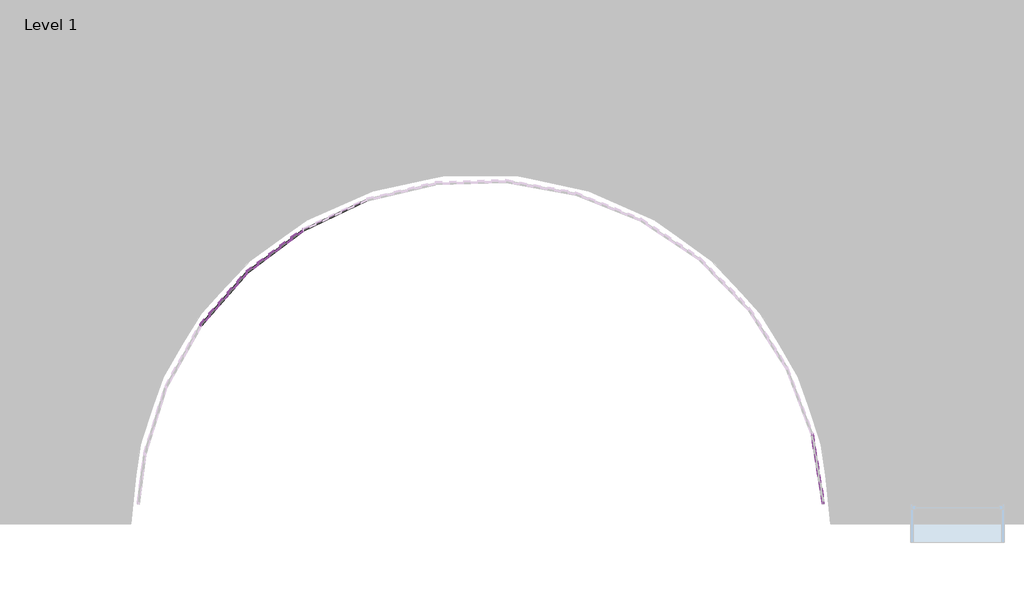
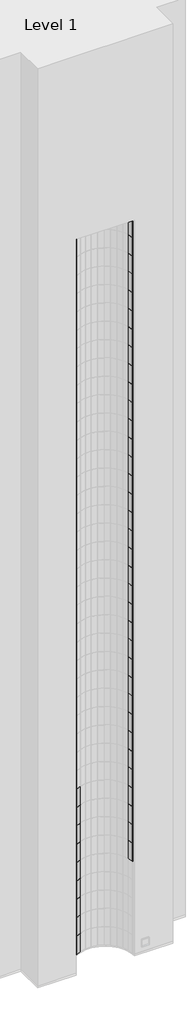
# One storey, part 7 of 20: 124 plates.
"""IFC4 building model written with IfcOpenShell, lengths in millimetres."""

from ifc_helpers import new_model, si_unit, origin, place, context, project, spatial, transform, mapped, element, save
from components import system_panel_glazed_d77d1ebf

model = new_model("IFC4")

# Units and contexts
model_context = context("Model", 3, world=origin())
ifc_project = project(units=[si_unit("LENGTHUNIT", "METRE", prefix="MILLI")], contexts=[model_context])

# Site, building, storey
site = spatial("IfcSite", under=ifc_project)
building = spatial("IfcBuilding", under=site)
storey = spatial("IfcBuildingStorey", under=building, Name="Level 1", Elevation=0.0)

# Plates
placement = place(None, origin())
system_panel_glazed_shape = system_panel_glazed_d77d1ebf(model_context)
element("IfcPlate", 1, ObjectType="System Panel : Glazed", at=placement, inside=storey, context=model_context, shape_type="MappedRepresentation", body=[
    mapped(system_panel_glazed_shape, transform((1625.145029, -17428.8737158, 0.0), x_axis=(-0.9039117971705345, -0.4277189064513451, 0.0), y_axis=(0.4277189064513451, -0.9039117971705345, 0.0), z_axis=(0.0, 0.0, 1.0))),
])
element("IfcPlate", 2, ObjectType="System Panel : Glazed", at=placement, inside=storey, context=model_context, shape_type="MappedRepresentation", body=[
    mapped(system_panel_glazed_shape, transform((847.326469, -17900.3526496, 0.0), x_axis=(-0.7973536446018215, -0.6035123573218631, 0.0), y_axis=(0.6035123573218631, -0.7973536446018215, 0.0), z_axis=(0.0, 0.0, 1.0))),
])
element("IfcPlate", 3, ObjectType="System Panel : Glazed", at=placement, inside=storey, context=model_context, shape_type="MappedRepresentation", body=[
    mapped(system_panel_glazed_shape, transform((182.349833, -18520.9170466, 0.0), x_axis=(-0.65710093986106, -0.7538025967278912, 0.0), y_axis=(0.7538025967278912, -0.65710093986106, 0.0), z_axis=(0.0, 0.0, 1.0))),
])
element("IfcPlate", 4, ObjectType="System Panel : Glazed", at=placement, inside=storey, context=model_context, shape_type="MappedRepresentation", body=[
    mapped(system_panel_glazed_shape, transform((1625.145029, -17428.8737158, 3048.0), x_axis=(-0.9039117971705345, -0.4277189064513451, 0.0), y_axis=(0.4277189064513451, -0.9039117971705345, 0.0), z_axis=(0.0, 0.0, 1.0))),
])
element("IfcPlate", 5, ObjectType="System Panel : Glazed", at=placement, inside=storey, context=model_context, shape_type="MappedRepresentation", body=[
    mapped(system_panel_glazed_shape, transform((847.326469, -17900.3526496, 3048.0), x_axis=(-0.7973536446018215, -0.6035123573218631, 0.0), y_axis=(0.6035123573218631, -0.7973536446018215, 0.0), z_axis=(0.0, 0.0, 1.0))),
])
element("IfcPlate", 6, ObjectType="System Panel : Glazed", at=placement, inside=storey, context=model_context, shape_type="MappedRepresentation", body=[
    mapped(system_panel_glazed_shape, transform((182.349833, -18520.9170466, 3048.0), x_axis=(-0.65710093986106, -0.7538025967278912, 0.0), y_axis=(0.7538025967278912, -0.65710093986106, 0.0), z_axis=(0.0, 0.0, 1.0))),
])
element("IfcPlate", 7, ObjectType="System Panel : Glazed", at=placement, inside=storey, context=model_context, shape_type="MappedRepresentation", body=[
    mapped(system_panel_glazed_shape, transform((1625.145029, -17428.8737158, 6096.0), x_axis=(-0.9039117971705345, -0.4277189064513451, 0.0), y_axis=(0.4277189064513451, -0.9039117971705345, 0.0), z_axis=(0.0, 0.0, 1.0))),
])
element("IfcPlate", 8, ObjectType="System Panel : Glazed", at=placement, inside=storey, context=model_context, shape_type="MappedRepresentation", body=[
    mapped(system_panel_glazed_shape, transform((847.326469, -17900.3526496, 6096.0), x_axis=(-0.7973536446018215, -0.6035123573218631, 0.0), y_axis=(0.6035123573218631, -0.7973536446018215, 0.0), z_axis=(0.0, 0.0, 1.0))),
])
element("IfcPlate", 9, ObjectType="System Panel : Glazed", at=placement, inside=storey, context=model_context, shape_type="MappedRepresentation", body=[
    mapped(system_panel_glazed_shape, transform((182.349833, -18520.9170466, 6096.0), x_axis=(-0.65710093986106, -0.7538025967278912, 0.0), y_axis=(0.7538025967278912, -0.65710093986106, 0.0), z_axis=(0.0, 0.0, 1.0))),
])
element("IfcPlate", 10, ObjectType="System Panel : Glazed", at=placement, inside=storey, context=model_context, shape_type="MappedRepresentation", body=[
    mapped(system_panel_glazed_shape, transform((1625.145029, -17428.8737158, 9144.0), x_axis=(-0.9039117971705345, -0.4277189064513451, 0.0), y_axis=(0.4277189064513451, -0.9039117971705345, 0.0), z_axis=(0.0, 0.0, 1.0))),
])
element("IfcPlate", 11, ObjectType="System Panel : Glazed", at=placement, inside=storey, context=model_context, shape_type="MappedRepresentation", body=[
    mapped(system_panel_glazed_shape, transform((847.326469, -17900.3526496, 9144.0), x_axis=(-0.7973536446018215, -0.6035123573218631, 0.0), y_axis=(0.6035123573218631, -0.7973536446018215, 0.0), z_axis=(0.0, 0.0, 1.0))),
])
element("IfcPlate", 12, ObjectType="System Panel : Glazed", at=placement, inside=storey, context=model_context, shape_type="MappedRepresentation", body=[
    mapped(system_panel_glazed_shape, transform((182.349833, -18520.9170466, 9144.0), x_axis=(-0.65710093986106, -0.7538025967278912, 0.0), y_axis=(0.7538025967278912, -0.65710093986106, 0.0), z_axis=(0.0, 0.0, 1.0))),
])
element("IfcPlate", 13, ObjectType="System Panel : Glazed", at=placement, inside=storey, context=model_context, shape_type="MappedRepresentation", body=[
    mapped(system_panel_glazed_shape, transform((1625.145029, -17428.8737158, 12192.0), x_axis=(-0.9039117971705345, -0.4277189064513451, 0.0), y_axis=(0.4277189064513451, -0.9039117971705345, 0.0), z_axis=(0.0, 0.0, 1.0))),
])
element("IfcPlate", 14, ObjectType="System Panel : Glazed", at=placement, inside=storey, context=model_context, shape_type="MappedRepresentation", body=[
    mapped(system_panel_glazed_shape, transform((847.326469, -17900.3526496, 12192.0), x_axis=(-0.7973536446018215, -0.6035123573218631, 0.0), y_axis=(0.6035123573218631, -0.7973536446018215, 0.0), z_axis=(0.0, 0.0, 1.0))),
])
element("IfcPlate", 15, ObjectType="System Panel : Glazed", at=placement, inside=storey, context=model_context, shape_type="MappedRepresentation", body=[
    mapped(system_panel_glazed_shape, transform((182.349833, -18520.9170466, 12192.0), x_axis=(-0.65710093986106, -0.7538025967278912, 0.0), y_axis=(0.7538025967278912, -0.65710093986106, 0.0), z_axis=(0.0, 0.0, 1.0))),
])
element("IfcPlate", 16, ObjectType="System Panel : Glazed", at=placement, inside=storey, context=model_context, shape_type="MappedRepresentation", body=[
    mapped(system_panel_glazed_shape, transform((7886.1724907, -20726.1064319, 15240.0), x_axis=(-0.1587098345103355, 0.9873252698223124, 0.0), y_axis=(-0.9873252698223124, -0.1587098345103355, 0.0), z_axis=(0.0, 0.0, 1.0))),
])
element("IfcPlate", 17, ObjectType="System Panel : Glazed", at=placement, inside=storey, context=model_context, shape_type="MappedRepresentation", body=[
    mapped(system_panel_glazed_shape, transform((1625.145029, -17428.8737158, 15240.0), x_axis=(-0.9039117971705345, -0.4277189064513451, 0.0), y_axis=(0.4277189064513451, -0.9039117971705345, 0.0), z_axis=(0.0, 0.0, 1.0))),
])
element("IfcPlate", 18, ObjectType="System Panel : Glazed", at=placement, inside=storey, context=model_context, shape_type="MappedRepresentation", body=[
    mapped(system_panel_glazed_shape, transform((847.326469, -17900.3526496, 15240.0), x_axis=(-0.7973536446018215, -0.6035123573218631, 0.0), y_axis=(0.6035123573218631, -0.7973536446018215, 0.0), z_axis=(0.0, 0.0, 1.0))),
])
element("IfcPlate", 19, ObjectType="System Panel : Glazed", at=placement, inside=storey, context=model_context, shape_type="MappedRepresentation", body=[
    mapped(system_panel_glazed_shape, transform((182.349833, -18520.9170466, 15240.0), x_axis=(-0.65710093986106, -0.7538025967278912, 0.0), y_axis=(0.7538025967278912, -0.65710093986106, 0.0), z_axis=(0.0, 0.0, 1.0))),
])
element("IfcPlate", 20, ObjectType="System Panel : Glazed", at=placement, inside=storey, context=model_context, shape_type="MappedRepresentation", body=[
    mapped(system_panel_glazed_shape, transform((7886.1724907, -20726.1064319, 18288.0), x_axis=(-0.1587098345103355, 0.9873252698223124, 0.0), y_axis=(-0.9873252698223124, -0.1587098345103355, 0.0), z_axis=(0.0, 0.0, 1.0))),
])
element("IfcPlate", 21, ObjectType="System Panel : Glazed", at=placement, inside=storey, context=model_context, shape_type="MappedRepresentation", body=[
    mapped(system_panel_glazed_shape, transform((1625.145029, -17428.8737158, 18288.0), x_axis=(-0.9039117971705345, -0.4277189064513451, 0.0), y_axis=(0.4277189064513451, -0.9039117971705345, 0.0), z_axis=(0.0, 0.0, 1.0))),
])
element("IfcPlate", 22, ObjectType="System Panel : Glazed", at=placement, inside=storey, context=model_context, shape_type="MappedRepresentation", body=[
    mapped(system_panel_glazed_shape, transform((847.326469, -17900.3526496, 18288.0), x_axis=(-0.7973536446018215, -0.6035123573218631, 0.0), y_axis=(0.6035123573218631, -0.7973536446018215, 0.0), z_axis=(0.0, 0.0, 1.0))),
])
element("IfcPlate", 23, ObjectType="System Panel : Glazed", at=placement, inside=storey, context=model_context, shape_type="MappedRepresentation", body=[
    mapped(system_panel_glazed_shape, transform((182.349833, -18520.9170466, 18288.0), x_axis=(-0.65710093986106, -0.7538025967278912, 0.0), y_axis=(0.7538025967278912, -0.65710093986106, 0.0), z_axis=(0.0, 0.0, 1.0))),
])
element("IfcPlate", 24, ObjectType="System Panel : Glazed", at=placement, inside=storey, context=model_context, shape_type="MappedRepresentation", body=[
    mapped(system_panel_glazed_shape, transform((7886.1724907, -20726.1064319, 21336.0), x_axis=(-0.1587098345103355, 0.9873252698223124, 0.0), y_axis=(-0.9873252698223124, -0.1587098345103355, 0.0), z_axis=(0.0, 0.0, 1.0))),
])
element("IfcPlate", 25, ObjectType="System Panel : Glazed", at=placement, inside=storey, context=model_context, shape_type="MappedRepresentation", body=[
    mapped(system_panel_glazed_shape, transform((1625.145029, -17428.8737158, 21336.0), x_axis=(-0.9039117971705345, -0.4277189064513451, 0.0), y_axis=(0.4277189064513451, -0.9039117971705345, 0.0), z_axis=(0.0, 0.0, 1.0))),
])
element("IfcPlate", 26, ObjectType="System Panel : Glazed", at=placement, inside=storey, context=model_context, shape_type="MappedRepresentation", body=[
    mapped(system_panel_glazed_shape, transform((847.326469, -17900.3526496, 21336.0), x_axis=(-0.7973536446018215, -0.6035123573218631, 0.0), y_axis=(0.6035123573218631, -0.7973536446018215, 0.0), z_axis=(0.0, 0.0, 1.0))),
])
element("IfcPlate", 27, ObjectType="System Panel : Glazed", at=placement, inside=storey, context=model_context, shape_type="MappedRepresentation", body=[
    mapped(system_panel_glazed_shape, transform((182.349833, -18520.9170466, 21336.0), x_axis=(-0.65710093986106, -0.7538025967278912, 0.0), y_axis=(0.7538025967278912, -0.65710093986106, 0.0), z_axis=(0.0, 0.0, 1.0))),
])
element("IfcPlate", 28, ObjectType="System Panel : Glazed", at=placement, inside=storey, context=model_context, shape_type="MappedRepresentation", body=[
    mapped(system_panel_glazed_shape, transform((7886.1724907, -20726.1064319, 24384.0), x_axis=(-0.1587098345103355, 0.9873252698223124, 0.0), y_axis=(-0.9873252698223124, -0.1587098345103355, 0.0), z_axis=(0.0, 0.0, 1.0))),
])
element("IfcPlate", 29, ObjectType="System Panel : Glazed", at=placement, inside=storey, context=model_context, shape_type="MappedRepresentation", body=[
    mapped(system_panel_glazed_shape, transform((1625.145029, -17428.8737158, 24384.0), x_axis=(-0.9039117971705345, -0.4277189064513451, 0.0), y_axis=(0.4277189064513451, -0.9039117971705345, 0.0), z_axis=(0.0, 0.0, 1.0))),
])
element("IfcPlate", 30, ObjectType="System Panel : Glazed", at=placement, inside=storey, context=model_context, shape_type="MappedRepresentation", body=[
    mapped(system_panel_glazed_shape, transform((847.326469, -17900.3526496, 24384.0), x_axis=(-0.7973536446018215, -0.6035123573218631, 0.0), y_axis=(0.6035123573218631, -0.7973536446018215, 0.0), z_axis=(0.0, 0.0, 1.0))),
])
element("IfcPlate", 31, ObjectType="System Panel : Glazed", at=placement, inside=storey, context=model_context, shape_type="MappedRepresentation", body=[
    mapped(system_panel_glazed_shape, transform((182.349833, -18520.9170466, 24384.0), x_axis=(-0.65710093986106, -0.7538025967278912, 0.0), y_axis=(0.7538025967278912, -0.65710093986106, 0.0), z_axis=(0.0, 0.0, 1.0))),
])
element("IfcPlate", 32, ObjectType="System Panel : Glazed", at=placement, inside=storey, context=model_context, shape_type="MappedRepresentation", body=[
    mapped(system_panel_glazed_shape, transform((7886.1724907, -20726.1064319, 27432.0), x_axis=(-0.1587098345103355, 0.9873252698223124, 0.0), y_axis=(-0.9873252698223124, -0.1587098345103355, 0.0), z_axis=(0.0, 0.0, 1.0))),
])
element("IfcPlate", 33, ObjectType="System Panel : Glazed", at=placement, inside=storey, context=model_context, shape_type="MappedRepresentation", body=[
    mapped(system_panel_glazed_shape, transform((847.326469, -17900.3526496, 27432.0), x_axis=(-0.7973536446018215, -0.6035123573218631, 0.0), y_axis=(0.6035123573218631, -0.7973536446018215, 0.0), z_axis=(0.0, 0.0, 1.0))),
])
element("IfcPlate", 34, ObjectType="System Panel : Glazed", at=placement, inside=storey, context=model_context, shape_type="MappedRepresentation", body=[
    mapped(system_panel_glazed_shape, transform((182.349833, -18520.9170466, 27432.0), x_axis=(-0.65710093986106, -0.7538025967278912, 0.0), y_axis=(0.7538025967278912, -0.65710093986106, 0.0), z_axis=(0.0, 0.0, 1.0))),
])
element("IfcPlate", 35, ObjectType="System Panel : Glazed", at=placement, inside=storey, context=model_context, shape_type="MappedRepresentation", body=[
    mapped(system_panel_glazed_shape, transform((7886.1724907, -20726.1064319, 30480.0), x_axis=(-0.1587098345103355, 0.9873252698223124, 0.0), y_axis=(-0.9873252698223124, -0.1587098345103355, 0.0), z_axis=(0.0, 0.0, 1.0))),
])
element("IfcPlate", 36, ObjectType="System Panel : Glazed", at=placement, inside=storey, context=model_context, shape_type="MappedRepresentation", body=[
    mapped(system_panel_glazed_shape, transform((847.326469, -17900.3526496, 30480.0), x_axis=(-0.7973536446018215, -0.6035123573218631, 0.0), y_axis=(0.6035123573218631, -0.7973536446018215, 0.0), z_axis=(0.0, 0.0, 1.0))),
])
element("IfcPlate", 37, ObjectType="System Panel : Glazed", at=placement, inside=storey, context=model_context, shape_type="MappedRepresentation", body=[
    mapped(system_panel_glazed_shape, transform((182.349833, -18520.9170466, 30480.0), x_axis=(-0.65710093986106, -0.7538025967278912, 0.0), y_axis=(0.7538025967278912, -0.65710093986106, 0.0), z_axis=(0.0, 0.0, 1.0))),
])
element("IfcPlate", 38, ObjectType="System Panel : Glazed", at=placement, inside=storey, context=model_context, shape_type="MappedRepresentation", body=[
    mapped(system_panel_glazed_shape, transform((7886.1724907, -20726.1064319, 33528.0), x_axis=(-0.1587098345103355, 0.9873252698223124, 0.0), y_axis=(-0.9873252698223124, -0.1587098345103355, 0.0), z_axis=(0.0, 0.0, 1.0))),
])
element("IfcPlate", 39, ObjectType="System Panel : Glazed", at=placement, inside=storey, context=model_context, shape_type="MappedRepresentation", body=[
    mapped(system_panel_glazed_shape, transform((847.326469, -17900.3526496, 33528.0), x_axis=(-0.7973536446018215, -0.6035123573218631, 0.0), y_axis=(0.6035123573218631, -0.7973536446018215, 0.0), z_axis=(0.0, 0.0, 1.0))),
])
element("IfcPlate", 40, ObjectType="System Panel : Glazed", at=placement, inside=storey, context=model_context, shape_type="MappedRepresentation", body=[
    mapped(system_panel_glazed_shape, transform((182.349833, -18520.9170466, 33528.0), x_axis=(-0.65710093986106, -0.7538025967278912, 0.0), y_axis=(0.7538025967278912, -0.65710093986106, 0.0), z_axis=(0.0, 0.0, 1.0))),
])
element("IfcPlate", 41, ObjectType="System Panel : Glazed", at=placement, inside=storey, context=model_context, shape_type="MappedRepresentation", body=[
    mapped(system_panel_glazed_shape, transform((7886.1724907, -20726.1064319, 36576.0), x_axis=(-0.1587098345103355, 0.9873252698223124, 0.0), y_axis=(-0.9873252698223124, -0.1587098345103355, 0.0), z_axis=(0.0, 0.0, 1.0))),
])
element("IfcPlate", 42, ObjectType="System Panel : Glazed", at=placement, inside=storey, context=model_context, shape_type="MappedRepresentation", body=[
    mapped(system_panel_glazed_shape, transform((847.326469, -17900.3526496, 36576.0), x_axis=(-0.7973536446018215, -0.6035123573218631, 0.0), y_axis=(0.6035123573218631, -0.7973536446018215, 0.0), z_axis=(0.0, 0.0, 1.0))),
])
element("IfcPlate", 43, ObjectType="System Panel : Glazed", at=placement, inside=storey, context=model_context, shape_type="MappedRepresentation", body=[
    mapped(system_panel_glazed_shape, transform((182.349833, -18520.9170466, 36576.0), x_axis=(-0.65710093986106, -0.7538025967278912, 0.0), y_axis=(0.7538025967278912, -0.65710093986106, 0.0), z_axis=(0.0, 0.0, 1.0))),
])
element("IfcPlate", 44, ObjectType="System Panel : Glazed", at=placement, inside=storey, context=model_context, shape_type="MappedRepresentation", body=[
    mapped(system_panel_glazed_shape, transform((7886.1724907, -20726.1064319, 39624.0), x_axis=(-0.1587098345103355, 0.9873252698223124, 0.0), y_axis=(-0.9873252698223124, -0.1587098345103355, 0.0), z_axis=(0.0, 0.0, 1.0))),
])
element("IfcPlate", 45, ObjectType="System Panel : Glazed", at=placement, inside=storey, context=model_context, shape_type="MappedRepresentation", body=[
    mapped(system_panel_glazed_shape, transform((847.326469, -17900.3526496, 39624.0), x_axis=(-0.7973536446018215, -0.6035123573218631, 0.0), y_axis=(0.6035123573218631, -0.7973536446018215, 0.0), z_axis=(0.0, 0.0, 1.0))),
])
element("IfcPlate", 46, ObjectType="System Panel : Glazed", at=placement, inside=storey, context=model_context, shape_type="MappedRepresentation", body=[
    mapped(system_panel_glazed_shape, transform((182.349833, -18520.9170466, 39624.0), x_axis=(-0.65710093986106, -0.7538025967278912, 0.0), y_axis=(0.7538025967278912, -0.65710093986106, 0.0), z_axis=(0.0, 0.0, 1.0))),
])
element("IfcPlate", 47, ObjectType="System Panel : Glazed", at=placement, inside=storey, context=model_context, shape_type="MappedRepresentation", body=[
    mapped(system_panel_glazed_shape, transform((7886.1724907, -20726.1064319, 42672.0), x_axis=(-0.1587098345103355, 0.9873252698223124, 0.0), y_axis=(-0.9873252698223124, -0.1587098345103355, 0.0), z_axis=(0.0, 0.0, 1.0))),
])
element("IfcPlate", 48, ObjectType="System Panel : Glazed", at=placement, inside=storey, context=model_context, shape_type="MappedRepresentation", body=[
    mapped(system_panel_glazed_shape, transform((847.326469, -17900.3526496, 42672.0), x_axis=(-0.7973536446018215, -0.6035123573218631, 0.0), y_axis=(0.6035123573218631, -0.7973536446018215, 0.0), z_axis=(0.0, 0.0, 1.0))),
])
element("IfcPlate", 49, ObjectType="System Panel : Glazed", at=placement, inside=storey, context=model_context, shape_type="MappedRepresentation", body=[
    mapped(system_panel_glazed_shape, transform((182.349833, -18520.9170466, 42672.0), x_axis=(-0.65710093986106, -0.7538025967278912, 0.0), y_axis=(0.7538025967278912, -0.65710093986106, 0.0), z_axis=(0.0, 0.0, 1.0))),
])
element("IfcPlate", 50, ObjectType="System Panel : Glazed", at=placement, inside=storey, context=model_context, shape_type="MappedRepresentation", body=[
    mapped(system_panel_glazed_shape, transform((7886.1724907, -20726.1064319, 45720.0), x_axis=(-0.1587098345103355, 0.9873252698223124, 0.0), y_axis=(-0.9873252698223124, -0.1587098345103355, 0.0), z_axis=(0.0, 0.0, 1.0))),
])
element("IfcPlate", 51, ObjectType="System Panel : Glazed", at=placement, inside=storey, context=model_context, shape_type="MappedRepresentation", body=[
    mapped(system_panel_glazed_shape, transform((847.326469, -17900.3526496, 45720.0), x_axis=(-0.7973536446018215, -0.6035123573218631, 0.0), y_axis=(0.6035123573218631, -0.7973536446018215, 0.0), z_axis=(0.0, 0.0, 1.0))),
])
element("IfcPlate", 52, ObjectType="System Panel : Glazed", at=placement, inside=storey, context=model_context, shape_type="MappedRepresentation", body=[
    mapped(system_panel_glazed_shape, transform((182.349833, -18520.9170466, 45720.0), x_axis=(-0.65710093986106, -0.7538025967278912, 0.0), y_axis=(0.7538025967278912, -0.65710093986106, 0.0), z_axis=(0.0, 0.0, 1.0))),
])
element("IfcPlate", 53, ObjectType="System Panel : Glazed", at=placement, inside=storey, context=model_context, shape_type="MappedRepresentation", body=[
    mapped(system_panel_glazed_shape, transform((7886.1724907, -20726.1064319, 48768.0), x_axis=(-0.1587098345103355, 0.9873252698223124, 0.0), y_axis=(-0.9873252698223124, -0.1587098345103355, 0.0), z_axis=(0.0, 0.0, 1.0))),
])
element("IfcPlate", 54, ObjectType="System Panel : Glazed", at=placement, inside=storey, context=model_context, shape_type="MappedRepresentation", body=[
    mapped(system_panel_glazed_shape, transform((847.326469, -17900.3526496, 48768.0), x_axis=(-0.7973536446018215, -0.6035123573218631, 0.0), y_axis=(0.6035123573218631, -0.7973536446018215, 0.0), z_axis=(0.0, 0.0, 1.0))),
])
element("IfcPlate", 55, ObjectType="System Panel : Glazed", at=placement, inside=storey, context=model_context, shape_type="MappedRepresentation", body=[
    mapped(system_panel_glazed_shape, transform((182.349833, -18520.9170466, 48768.0), x_axis=(-0.65710093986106, -0.7538025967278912, 0.0), y_axis=(0.7538025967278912, -0.65710093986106, 0.0), z_axis=(0.0, 0.0, 1.0))),
])
element("IfcPlate", 56, ObjectType="System Panel : Glazed", at=placement, inside=storey, context=model_context, shape_type="MappedRepresentation", body=[
    mapped(system_panel_glazed_shape, transform((7886.1724907, -20726.1064319, 51816.0), x_axis=(-0.1587098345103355, 0.9873252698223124, 0.0), y_axis=(-0.9873252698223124, -0.1587098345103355, 0.0), z_axis=(0.0, 0.0, 1.0))),
])
element("IfcPlate", 57, ObjectType="System Panel : Glazed", at=placement, inside=storey, context=model_context, shape_type="MappedRepresentation", body=[
    mapped(system_panel_glazed_shape, transform((847.326469, -17900.3526496, 51816.0), x_axis=(-0.7973536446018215, -0.6035123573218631, 0.0), y_axis=(0.6035123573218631, -0.7973536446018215, 0.0), z_axis=(0.0, 0.0, 1.0))),
])
element("IfcPlate", 58, ObjectType="System Panel : Glazed", at=placement, inside=storey, context=model_context, shape_type="MappedRepresentation", body=[
    mapped(system_panel_glazed_shape, transform((182.349833, -18520.9170466, 51816.0), x_axis=(-0.65710093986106, -0.7538025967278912, 0.0), y_axis=(0.7538025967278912, -0.65710093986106, 0.0), z_axis=(0.0, 0.0, 1.0))),
])
element("IfcPlate", 59, ObjectType="System Panel : Glazed", at=placement, inside=storey, context=model_context, shape_type="MappedRepresentation", body=[
    mapped(system_panel_glazed_shape, transform((7886.1724907, -20726.1064319, 54864.0), x_axis=(-0.1587098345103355, 0.9873252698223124, 0.0), y_axis=(-0.9873252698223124, -0.1587098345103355, 0.0), z_axis=(0.0, 0.0, 1.0))),
])
element("IfcPlate", 60, ObjectType="System Panel : Glazed", at=placement, inside=storey, context=model_context, shape_type="MappedRepresentation", body=[
    mapped(system_panel_glazed_shape, transform((847.326469, -17900.3526496, 54864.0), x_axis=(-0.7973536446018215, -0.6035123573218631, 0.0), y_axis=(0.6035123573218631, -0.7973536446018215, 0.0), z_axis=(0.0, 0.0, 1.0))),
])
element("IfcPlate", 61, ObjectType="System Panel : Glazed", at=placement, inside=storey, context=model_context, shape_type="MappedRepresentation", body=[
    mapped(system_panel_glazed_shape, transform((182.349833, -18520.9170466, 54864.0), x_axis=(-0.65710093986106, -0.7538025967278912, 0.0), y_axis=(0.7538025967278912, -0.65710093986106, 0.0), z_axis=(0.0, 0.0, 1.0))),
])
element("IfcPlate", 62, ObjectType="System Panel : Glazed", at=placement, inside=storey, context=model_context, shape_type="MappedRepresentation", body=[
    mapped(system_panel_glazed_shape, transform((7886.1724907, -20726.1064319, 57912.0), x_axis=(-0.1587098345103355, 0.9873252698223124, 0.0), y_axis=(-0.9873252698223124, -0.1587098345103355, 0.0), z_axis=(0.0, 0.0, 1.0))),
])
element("IfcPlate", 63, ObjectType="System Panel : Glazed", at=placement, inside=storey, context=model_context, shape_type="MappedRepresentation", body=[
    mapped(system_panel_glazed_shape, transform((847.326469, -17900.3526496, 57912.0), x_axis=(-0.7973536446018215, -0.6035123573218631, 0.0), y_axis=(0.6035123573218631, -0.7973536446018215, 0.0), z_axis=(0.0, 0.0, 1.0))),
])
element("IfcPlate", 64, ObjectType="System Panel : Glazed", at=placement, inside=storey, context=model_context, shape_type="MappedRepresentation", body=[
    mapped(system_panel_glazed_shape, transform((182.349833, -18520.9170466, 57912.0), x_axis=(-0.65710093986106, -0.7538025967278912, 0.0), y_axis=(0.7538025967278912, -0.65710093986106, 0.0), z_axis=(0.0, 0.0, 1.0))),
])
element("IfcPlate", 65, ObjectType="System Panel : Glazed", at=placement, inside=storey, context=model_context, shape_type="MappedRepresentation", body=[
    mapped(system_panel_glazed_shape, transform((7886.1724907, -20726.1064319, 60960.0), x_axis=(-0.1587098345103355, 0.9873252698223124, 0.0), y_axis=(-0.9873252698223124, -0.1587098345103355, 0.0), z_axis=(0.0, 0.0, 1.0))),
])
element("IfcPlate", 66, ObjectType="System Panel : Glazed", at=placement, inside=storey, context=model_context, shape_type="MappedRepresentation", body=[
    mapped(system_panel_glazed_shape, transform((847.326469, -17900.3526496, 60960.0), x_axis=(-0.7973536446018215, -0.6035123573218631, 0.0), y_axis=(0.6035123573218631, -0.7973536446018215, 0.0), z_axis=(0.0, 0.0, 1.0))),
])
element("IfcPlate", 67, ObjectType="System Panel : Glazed", at=placement, inside=storey, context=model_context, shape_type="MappedRepresentation", body=[
    mapped(system_panel_glazed_shape, transform((182.349833, -18520.9170466, 60960.0), x_axis=(-0.65710093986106, -0.7538025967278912, 0.0), y_axis=(0.7538025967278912, -0.65710093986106, 0.0), z_axis=(0.0, 0.0, 1.0))),
])
element("IfcPlate", 68, ObjectType="System Panel : Glazed", at=placement, inside=storey, context=model_context, shape_type="MappedRepresentation", body=[
    mapped(system_panel_glazed_shape, transform((7886.1724907, -20726.1064319, 64008.0), x_axis=(-0.1587098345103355, 0.9873252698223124, 0.0), y_axis=(-0.9873252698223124, -0.1587098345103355, 0.0), z_axis=(0.0, 0.0, 1.0))),
])
element("IfcPlate", 69, ObjectType="System Panel : Glazed", at=placement, inside=storey, context=model_context, shape_type="MappedRepresentation", body=[
    mapped(system_panel_glazed_shape, transform((847.326469, -17900.3526496, 64008.0), x_axis=(-0.7973536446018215, -0.6035123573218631, 0.0), y_axis=(0.6035123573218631, -0.7973536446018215, 0.0), z_axis=(0.0, 0.0, 1.0))),
])
element("IfcPlate", 70, ObjectType="System Panel : Glazed", at=placement, inside=storey, context=model_context, shape_type="MappedRepresentation", body=[
    mapped(system_panel_glazed_shape, transform((182.349833, -18520.9170466, 64008.0), x_axis=(-0.65710093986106, -0.7538025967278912, 0.0), y_axis=(0.7538025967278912, -0.65710093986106, 0.0), z_axis=(0.0, 0.0, 1.0))),
])
element("IfcPlate", 71, ObjectType="System Panel : Glazed", at=placement, inside=storey, context=model_context, shape_type="MappedRepresentation", body=[
    mapped(system_panel_glazed_shape, transform((7886.1724907, -20726.1064319, 67056.0), x_axis=(-0.1587098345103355, 0.9873252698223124, 0.0), y_axis=(-0.9873252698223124, -0.1587098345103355, 0.0), z_axis=(0.0, 0.0, 1.0))),
])
element("IfcPlate", 72, ObjectType="System Panel : Glazed", at=placement, inside=storey, context=model_context, shape_type="MappedRepresentation", body=[
    mapped(system_panel_glazed_shape, transform((847.326469, -17900.3526496, 67056.0), x_axis=(-0.7973536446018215, -0.6035123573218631, 0.0), y_axis=(0.6035123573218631, -0.7973536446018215, 0.0), z_axis=(0.0, 0.0, 1.0))),
])
element("IfcPlate", 73, ObjectType="System Panel : Glazed", at=placement, inside=storey, context=model_context, shape_type="MappedRepresentation", body=[
    mapped(system_panel_glazed_shape, transform((182.349833, -18520.9170466, 67056.0), x_axis=(-0.65710093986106, -0.7538025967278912, 0.0), y_axis=(0.7538025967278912, -0.65710093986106, 0.0), z_axis=(0.0, 0.0, 1.0))),
])
element("IfcPlate", 74, ObjectType="System Panel : Glazed", at=placement, inside=storey, context=model_context, shape_type="MappedRepresentation", body=[
    mapped(system_panel_glazed_shape, transform((7886.1724907, -20726.1064319, 70104.0), x_axis=(-0.1587098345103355, 0.9873252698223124, 0.0), y_axis=(-0.9873252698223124, -0.1587098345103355, 0.0), z_axis=(0.0, 0.0, 1.0))),
])
element("IfcPlate", 75, ObjectType="System Panel : Glazed", at=placement, inside=storey, context=model_context, shape_type="MappedRepresentation", body=[
    mapped(system_panel_glazed_shape, transform((847.326469, -17900.3526496, 70104.0), x_axis=(-0.7973536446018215, -0.6035123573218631, 0.0), y_axis=(0.6035123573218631, -0.7973536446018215, 0.0), z_axis=(0.0, 0.0, 1.0))),
])
element("IfcPlate", 76, ObjectType="System Panel : Glazed", at=placement, inside=storey, context=model_context, shape_type="MappedRepresentation", body=[
    mapped(system_panel_glazed_shape, transform((182.349833, -18520.9170466, 70104.0), x_axis=(-0.65710093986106, -0.7538025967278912, 0.0), y_axis=(0.7538025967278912, -0.65710093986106, 0.0), z_axis=(0.0, 0.0, 1.0))),
])
element("IfcPlate", 77, ObjectType="System Panel : Glazed", at=placement, inside=storey, context=model_context, shape_type="MappedRepresentation", body=[
    mapped(system_panel_glazed_shape, transform((7886.1724907, -20726.1064319, 73152.0), x_axis=(-0.1587098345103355, 0.9873252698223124, 0.0), y_axis=(-0.9873252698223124, -0.1587098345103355, 0.0), z_axis=(0.0, 0.0, 1.0))),
])
element("IfcPlate", 78, ObjectType="System Panel : Glazed", at=placement, inside=storey, context=model_context, shape_type="MappedRepresentation", body=[
    mapped(system_panel_glazed_shape, transform((847.326469, -17900.3526496, 73152.0), x_axis=(-0.7973536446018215, -0.6035123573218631, 0.0), y_axis=(0.6035123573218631, -0.7973536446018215, 0.0), z_axis=(0.0, 0.0, 1.0))),
])
element("IfcPlate", 79, ObjectType="System Panel : Glazed", at=placement, inside=storey, context=model_context, shape_type="MappedRepresentation", body=[
    mapped(system_panel_glazed_shape, transform((182.349833, -18520.9170466, 73152.0), x_axis=(-0.65710093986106, -0.7538025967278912, 0.0), y_axis=(0.7538025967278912, -0.65710093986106, 0.0), z_axis=(0.0, 0.0, 1.0))),
])
element("IfcPlate", 80, ObjectType="System Panel : Glazed", at=placement, inside=storey, context=model_context, shape_type="MappedRepresentation", body=[
    mapped(system_panel_glazed_shape, transform((7886.1724907, -20726.1064319, 76200.0), x_axis=(-0.1587098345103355, 0.9873252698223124, 0.0), y_axis=(-0.9873252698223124, -0.1587098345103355, 0.0), z_axis=(0.0, 0.0, 1.0))),
])
element("IfcPlate", 81, ObjectType="System Panel : Glazed", at=placement, inside=storey, context=model_context, shape_type="MappedRepresentation", body=[
    mapped(system_panel_glazed_shape, transform((847.326469, -17900.3526496, 76200.0), x_axis=(-0.7973536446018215, -0.6035123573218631, 0.0), y_axis=(0.6035123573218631, -0.7973536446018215, 0.0), z_axis=(0.0, 0.0, 1.0))),
])
element("IfcPlate", 82, ObjectType="System Panel : Glazed", at=placement, inside=storey, context=model_context, shape_type="MappedRepresentation", body=[
    mapped(system_panel_glazed_shape, transform((182.349833, -18520.9170466, 76200.0), x_axis=(-0.65710093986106, -0.7538025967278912, 0.0), y_axis=(0.7538025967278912, -0.65710093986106, 0.0), z_axis=(0.0, 0.0, 1.0))),
])
element("IfcPlate", 83, ObjectType="System Panel : Glazed", at=placement, inside=storey, context=model_context, shape_type="MappedRepresentation", body=[
    mapped(system_panel_glazed_shape, transform((7886.1724907, -20726.1064319, 79248.0), x_axis=(-0.1587098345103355, 0.9873252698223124, 0.0), y_axis=(-0.9873252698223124, -0.1587098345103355, 0.0), z_axis=(0.0, 0.0, 1.0))),
])
element("IfcPlate", 84, ObjectType="System Panel : Glazed", at=placement, inside=storey, context=model_context, shape_type="MappedRepresentation", body=[
    mapped(system_panel_glazed_shape, transform((847.326469, -17900.3526496, 79248.0), x_axis=(-0.7973536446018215, -0.6035123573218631, 0.0), y_axis=(0.6035123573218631, -0.7973536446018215, 0.0), z_axis=(0.0, 0.0, 1.0))),
])
element("IfcPlate", 85, ObjectType="System Panel : Glazed", at=placement, inside=storey, context=model_context, shape_type="MappedRepresentation", body=[
    mapped(system_panel_glazed_shape, transform((182.349833, -18520.9170466, 79248.0), x_axis=(-0.65710093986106, -0.7538025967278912, 0.0), y_axis=(0.7538025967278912, -0.65710093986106, 0.0), z_axis=(0.0, 0.0, 1.0))),
])
element("IfcPlate", 86, ObjectType="System Panel : Glazed", at=placement, inside=storey, context=model_context, shape_type="MappedRepresentation", body=[
    mapped(system_panel_glazed_shape, transform((7886.1724907, -20726.1064319, 82296.0), x_axis=(-0.1587098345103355, 0.9873252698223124, 0.0), y_axis=(-0.9873252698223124, -0.1587098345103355, 0.0), z_axis=(0.0, 0.0, 1.0))),
])
element("IfcPlate", 87, ObjectType="System Panel : Glazed", at=placement, inside=storey, context=model_context, shape_type="MappedRepresentation", body=[
    mapped(system_panel_glazed_shape, transform((847.326469, -17900.3526496, 82296.0), x_axis=(-0.7973536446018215, -0.6035123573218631, 0.0), y_axis=(0.6035123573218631, -0.7973536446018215, 0.0), z_axis=(0.0, 0.0, 1.0))),
])
element("IfcPlate", 88, ObjectType="System Panel : Glazed", at=placement, inside=storey, context=model_context, shape_type="MappedRepresentation", body=[
    mapped(system_panel_glazed_shape, transform((182.349833, -18520.9170466, 82296.0), x_axis=(-0.65710093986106, -0.7538025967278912, 0.0), y_axis=(0.7538025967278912, -0.65710093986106, 0.0), z_axis=(0.0, 0.0, 1.0))),
])
element("IfcPlate", 89, ObjectType="System Panel : Glazed", at=placement, inside=storey, context=model_context, shape_type="MappedRepresentation", body=[
    mapped(system_panel_glazed_shape, transform((7886.1724907, -20726.1064319, 85344.0), x_axis=(-0.1587098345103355, 0.9873252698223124, 0.0), y_axis=(-0.9873252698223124, -0.1587098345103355, 0.0), z_axis=(0.0, 0.0, 1.0))),
])
element("IfcPlate", 90, ObjectType="System Panel : Glazed", at=placement, inside=storey, context=model_context, shape_type="MappedRepresentation", body=[
    mapped(system_panel_glazed_shape, transform((847.326469, -17900.3526496, 85344.0), x_axis=(-0.7973536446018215, -0.6035123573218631, 0.0), y_axis=(0.6035123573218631, -0.7973536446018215, 0.0), z_axis=(0.0, 0.0, 1.0))),
])
element("IfcPlate", 91, ObjectType="System Panel : Glazed", at=placement, inside=storey, context=model_context, shape_type="MappedRepresentation", body=[
    mapped(system_panel_glazed_shape, transform((182.349833, -18520.9170466, 85344.0), x_axis=(-0.65710093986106, -0.7538025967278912, 0.0), y_axis=(0.7538025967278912, -0.65710093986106, 0.0), z_axis=(0.0, 0.0, 1.0))),
])
element("IfcPlate", 92, ObjectType="System Panel : Glazed", at=placement, inside=storey, context=model_context, shape_type="MappedRepresentation", body=[
    mapped(system_panel_glazed_shape, transform((7886.1724907, -20726.1064319, 88392.0), x_axis=(-0.1587098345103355, 0.9873252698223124, 0.0), y_axis=(-0.9873252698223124, -0.1587098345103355, 0.0), z_axis=(0.0, 0.0, 1.0))),
])
element("IfcPlate", 93, ObjectType="System Panel : Glazed", at=placement, inside=storey, context=model_context, shape_type="MappedRepresentation", body=[
    mapped(system_panel_glazed_shape, transform((847.326469, -17900.3526496, 88392.0), x_axis=(-0.7973536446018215, -0.6035123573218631, 0.0), y_axis=(0.6035123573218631, -0.7973536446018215, 0.0), z_axis=(0.0, 0.0, 1.0))),
])
element("IfcPlate", 94, ObjectType="System Panel : Glazed", at=placement, inside=storey, context=model_context, shape_type="MappedRepresentation", body=[
    mapped(system_panel_glazed_shape, transform((182.349833, -18520.9170466, 88392.0), x_axis=(-0.65710093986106, -0.7538025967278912, 0.0), y_axis=(0.7538025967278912, -0.65710093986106, 0.0), z_axis=(0.0, 0.0, 1.0))),
])
element("IfcPlate", 95, ObjectType="System Panel : Glazed", at=placement, inside=storey, context=model_context, shape_type="MappedRepresentation", body=[
    mapped(system_panel_glazed_shape, transform((7886.1724907, -20726.1064319, 91440.0), x_axis=(-0.1587098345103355, 0.9873252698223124, 0.0), y_axis=(-0.9873252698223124, -0.1587098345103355, 0.0), z_axis=(0.0, 0.0, 1.0))),
])
element("IfcPlate", 96, ObjectType="System Panel : Glazed", at=placement, inside=storey, context=model_context, shape_type="MappedRepresentation", body=[
    mapped(system_panel_glazed_shape, transform((847.326469, -17900.3526496, 91440.0), x_axis=(-0.7973536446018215, -0.6035123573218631, 0.0), y_axis=(0.6035123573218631, -0.7973536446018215, 0.0), z_axis=(0.0, 0.0, 1.0))),
])
element("IfcPlate", 97, ObjectType="System Panel : Glazed", at=placement, inside=storey, context=model_context, shape_type="MappedRepresentation", body=[
    mapped(system_panel_glazed_shape, transform((182.349833, -18520.9170466, 91440.0), x_axis=(-0.65710093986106, -0.7538025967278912, 0.0), y_axis=(0.7538025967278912, -0.65710093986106, 0.0), z_axis=(0.0, 0.0, 1.0))),
])
element("IfcPlate", 98, ObjectType="System Panel : Glazed", at=placement, inside=storey, context=model_context, shape_type="MappedRepresentation", body=[
    mapped(system_panel_glazed_shape, transform((7886.1724907, -20726.1064319, 94488.0), x_axis=(-0.1587098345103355, 0.9873252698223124, 0.0), y_axis=(-0.9873252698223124, -0.1587098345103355, 0.0), z_axis=(0.0, 0.0, 1.0))),
])
element("IfcPlate", 99, ObjectType="System Panel : Glazed", at=placement, inside=storey, context=model_context, shape_type="MappedRepresentation", body=[
    mapped(system_panel_glazed_shape, transform((847.326469, -17900.3526496, 94488.0), x_axis=(-0.7973536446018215, -0.6035123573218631, 0.0), y_axis=(0.6035123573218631, -0.7973536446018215, 0.0), z_axis=(0.0, 0.0, 1.0))),
])
element("IfcPlate", 100, ObjectType="System Panel : Glazed", at=placement, inside=storey, context=model_context, shape_type="MappedRepresentation", body=[
    mapped(system_panel_glazed_shape, transform((182.349833, -18520.9170466, 94488.0), x_axis=(-0.65710093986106, -0.7538025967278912, 0.0), y_axis=(0.7538025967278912, -0.65710093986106, 0.0), z_axis=(0.0, 0.0, 1.0))),
])
element("IfcPlate", 101, ObjectType="System Panel : Glazed", at=placement, inside=storey, context=model_context, shape_type="MappedRepresentation", body=[
    mapped(system_panel_glazed_shape, transform((7886.1724907, -20726.1064319, 97536.0), x_axis=(-0.1587098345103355, 0.9873252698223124, 0.0), y_axis=(-0.9873252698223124, -0.1587098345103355, 0.0), z_axis=(0.0, 0.0, 1.0))),
])
element("IfcPlate", 102, ObjectType="System Panel : Glazed", at=placement, inside=storey, context=model_context, shape_type="MappedRepresentation", body=[
    mapped(system_panel_glazed_shape, transform((847.326469, -17900.3526496, 97536.0), x_axis=(-0.7973536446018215, -0.6035123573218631, 0.0), y_axis=(0.6035123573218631, -0.7973536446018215, 0.0), z_axis=(0.0, 0.0, 1.0))),
])
element("IfcPlate", 103, ObjectType="System Panel : Glazed", at=placement, inside=storey, context=model_context, shape_type="MappedRepresentation", body=[
    mapped(system_panel_glazed_shape, transform((182.349833, -18520.9170466, 97536.0), x_axis=(-0.65710093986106, -0.7538025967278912, 0.0), y_axis=(0.7538025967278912, -0.65710093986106, 0.0), z_axis=(0.0, 0.0, 1.0))),
])
element("IfcPlate", 104, ObjectType="System Panel : Glazed", at=placement, inside=storey, context=model_context, shape_type="MappedRepresentation", body=[
    mapped(system_panel_glazed_shape, transform((7886.1724907, -20726.1064319, 100584.0), x_axis=(-0.1587098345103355, 0.9873252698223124, 0.0), y_axis=(-0.9873252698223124, -0.1587098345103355, 0.0), z_axis=(0.0, 0.0, 1.0))),
])
element("IfcPlate", 105, ObjectType="System Panel : Glazed", at=placement, inside=storey, context=model_context, shape_type="MappedRepresentation", body=[
    mapped(system_panel_glazed_shape, transform((847.326469, -17900.3526496, 100584.0), x_axis=(-0.7973536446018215, -0.6035123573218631, 0.0), y_axis=(0.6035123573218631, -0.7973536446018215, 0.0), z_axis=(0.0, 0.0, 1.0))),
])
element("IfcPlate", 106, ObjectType="System Panel : Glazed", at=placement, inside=storey, context=model_context, shape_type="MappedRepresentation", body=[
    mapped(system_panel_glazed_shape, transform((182.349833, -18520.9170466, 100584.0), x_axis=(-0.65710093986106, -0.7538025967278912, 0.0), y_axis=(0.7538025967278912, -0.65710093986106, 0.0), z_axis=(0.0, 0.0, 1.0))),
])
element("IfcPlate", 107, ObjectType="System Panel : Glazed", at=placement, inside=storey, context=model_context, shape_type="MappedRepresentation", body=[
    mapped(system_panel_glazed_shape, transform((7886.1724907, -20726.1064319, 103632.0), x_axis=(-0.1587098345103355, 0.9873252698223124, 0.0), y_axis=(-0.9873252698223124, -0.1587098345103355, 0.0), z_axis=(0.0, 0.0, 1.0))),
])
element("IfcPlate", 108, ObjectType="System Panel : Glazed", at=placement, inside=storey, context=model_context, shape_type="MappedRepresentation", body=[
    mapped(system_panel_glazed_shape, transform((847.326469, -17900.3526496, 103632.0), x_axis=(-0.7973536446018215, -0.6035123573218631, 0.0), y_axis=(0.6035123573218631, -0.7973536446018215, 0.0), z_axis=(0.0, 0.0, 1.0))),
])
element("IfcPlate", 109, ObjectType="System Panel : Glazed", at=placement, inside=storey, context=model_context, shape_type="MappedRepresentation", body=[
    mapped(system_panel_glazed_shape, transform((182.349833, -18520.9170466, 103632.0), x_axis=(-0.65710093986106, -0.7538025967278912, 0.0), y_axis=(0.7538025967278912, -0.65710093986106, 0.0), z_axis=(0.0, 0.0, 1.0))),
])
element("IfcPlate", 110, ObjectType="System Panel : Glazed", at=placement, inside=storey, context=model_context, shape_type="MappedRepresentation", body=[
    mapped(system_panel_glazed_shape, transform((7886.1724907, -20726.1064319, 106680.0), x_axis=(-0.1587098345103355, 0.9873252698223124, 0.0), y_axis=(-0.9873252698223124, -0.1587098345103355, 0.0), z_axis=(0.0, 0.0, 1.0))),
])
element("IfcPlate", 111, ObjectType="System Panel : Glazed", at=placement, inside=storey, context=model_context, shape_type="MappedRepresentation", body=[
    mapped(system_panel_glazed_shape, transform((847.326469, -17900.3526496, 106680.0), x_axis=(-0.7973536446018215, -0.6035123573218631, 0.0), y_axis=(0.6035123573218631, -0.7973536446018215, 0.0), z_axis=(0.0, 0.0, 1.0))),
])
element("IfcPlate", 112, ObjectType="System Panel : Glazed", at=placement, inside=storey, context=model_context, shape_type="MappedRepresentation", body=[
    mapped(system_panel_glazed_shape, transform((182.349833, -18520.9170466, 106680.0), x_axis=(-0.65710093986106, -0.7538025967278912, 0.0), y_axis=(0.7538025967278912, -0.65710093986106, 0.0), z_axis=(0.0, 0.0, 1.0))),
])
element("IfcPlate", 113, ObjectType="System Panel : Glazed", at=placement, inside=storey, context=model_context, shape_type="MappedRepresentation", body=[
    mapped(system_panel_glazed_shape, transform((7886.1724907, -20726.1064319, 109728.0), x_axis=(-0.1587098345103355, 0.9873252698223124, 0.0), y_axis=(-0.9873252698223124, -0.1587098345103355, 0.0), z_axis=(0.0, 0.0, 1.0))),
])
element("IfcPlate", 114, ObjectType="System Panel : Glazed", at=placement, inside=storey, context=model_context, shape_type="MappedRepresentation", body=[
    mapped(system_panel_glazed_shape, transform((847.326469, -17900.3526496, 109728.0), x_axis=(-0.7973536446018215, -0.6035123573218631, 0.0), y_axis=(0.6035123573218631, -0.7973536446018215, 0.0), z_axis=(0.0, 0.0, 1.0))),
])
element("IfcPlate", 115, ObjectType="System Panel : Glazed", at=placement, inside=storey, context=model_context, shape_type="MappedRepresentation", body=[
    mapped(system_panel_glazed_shape, transform((182.349833, -18520.9170466, 109728.0), x_axis=(-0.65710093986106, -0.7538025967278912, 0.0), y_axis=(0.7538025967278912, -0.65710093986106, 0.0), z_axis=(0.0, 0.0, 1.0))),
])
element("IfcPlate", 116, ObjectType="System Panel : Glazed", at=placement, inside=storey, context=model_context, shape_type="MappedRepresentation", body=[
    mapped(system_panel_glazed_shape, transform((7886.1724907, -20726.1064319, 112776.0), x_axis=(-0.1587098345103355, 0.9873252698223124, 0.0), y_axis=(-0.9873252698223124, -0.1587098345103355, 0.0), z_axis=(0.0, 0.0, 1.0))),
])
element("IfcPlate", 117, ObjectType="System Panel : Glazed", at=placement, inside=storey, context=model_context, shape_type="MappedRepresentation", body=[
    mapped(system_panel_glazed_shape, transform((847.326469, -17900.3526496, 112776.0), x_axis=(-0.7973536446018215, -0.6035123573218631, 0.0), y_axis=(0.6035123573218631, -0.7973536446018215, 0.0), z_axis=(0.0, 0.0, 1.0))),
])
element("IfcPlate", 118, ObjectType="System Panel : Glazed", at=placement, inside=storey, context=model_context, shape_type="MappedRepresentation", body=[
    mapped(system_panel_glazed_shape, transform((182.349833, -18520.9170466, 112776.0), x_axis=(-0.65710093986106, -0.7538025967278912, 0.0), y_axis=(0.7538025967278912, -0.65710093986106, 0.0), z_axis=(0.0, 0.0, 1.0))),
])
element("IfcPlate", 119, ObjectType="System Panel : Glazed", at=placement, inside=storey, context=model_context, shape_type="MappedRepresentation", body=[
    mapped(system_panel_glazed_shape, transform((7886.1724907, -20726.1064319, 115824.0), x_axis=(-0.1587098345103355, 0.9873252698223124, 0.0), y_axis=(-0.9873252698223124, -0.1587098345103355, 0.0), z_axis=(0.0, 0.0, 1.0))),
])
element("IfcPlate", 120, ObjectType="System Panel : Glazed", at=placement, inside=storey, context=model_context, shape_type="MappedRepresentation", body=[
    mapped(system_panel_glazed_shape, transform((847.326469, -17900.3526496, 115824.0), x_axis=(-0.7973536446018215, -0.6035123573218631, 0.0), y_axis=(0.6035123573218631, -0.7973536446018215, 0.0), z_axis=(0.0, 0.0, 1.0))),
])
element("IfcPlate", 121, ObjectType="System Panel : Glazed", at=placement, inside=storey, context=model_context, shape_type="MappedRepresentation", body=[
    mapped(system_panel_glazed_shape, transform((182.349833, -18520.9170466, 115824.0), x_axis=(-0.65710093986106, -0.7538025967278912, 0.0), y_axis=(0.7538025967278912, -0.65710093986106, 0.0), z_axis=(0.0, 0.0, 1.0))),
])
element("IfcPlate", 122, ObjectType="System Panel : Glazed", at=placement, inside=storey, context=model_context, shape_type="MappedRepresentation", body=[
    mapped(system_panel_glazed_shape, transform((7886.1724907, -20726.1064319, 118872.0), x_axis=(-0.1587098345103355, 0.9873252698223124, 0.0), y_axis=(-0.9873252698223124, -0.1587098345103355, 0.0), z_axis=(0.0, 0.0, 1.0))),
])
element("IfcPlate", 123, ObjectType="System Panel : Glazed", at=placement, inside=storey, context=model_context, shape_type="MappedRepresentation", body=[
    mapped(system_panel_glazed_shape, transform((847.326469, -17900.3526496, 118872.0), x_axis=(-0.7973536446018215, -0.6035123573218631, 0.0), y_axis=(0.6035123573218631, -0.7973536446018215, 0.0), z_axis=(0.0, 0.0, 1.0))),
])
element("IfcPlate", 124, ObjectType="System Panel : Glazed", at=placement, inside=storey, context=model_context, shape_type="MappedRepresentation", body=[
    mapped(system_panel_glazed_shape, transform((182.349833, -18520.9170466, 118872.0), x_axis=(-0.65710093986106, -0.7538025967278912, 0.0), y_axis=(0.7538025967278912, -0.65710093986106, 0.0), z_axis=(0.0, 0.0, 1.0))),
])

save(model, "model.ifc")
